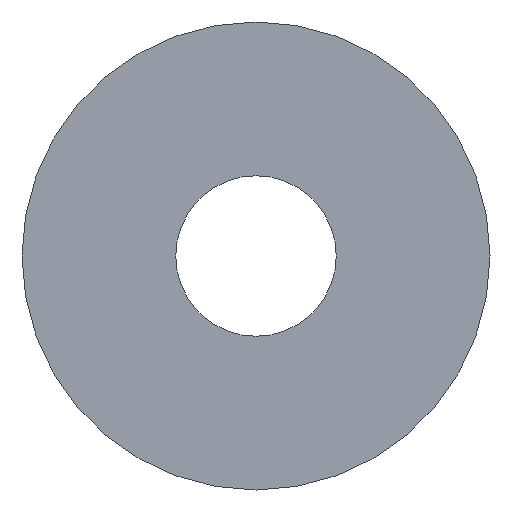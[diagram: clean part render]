
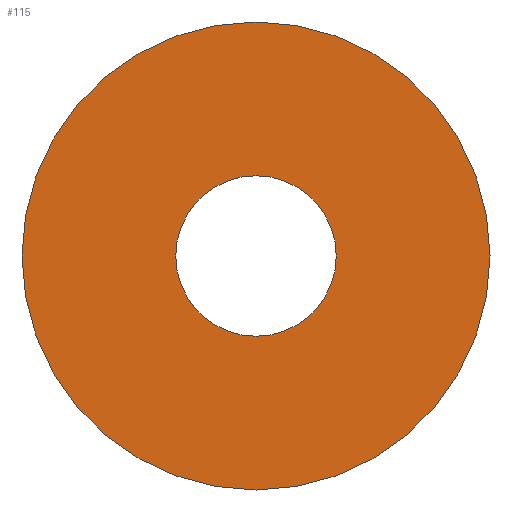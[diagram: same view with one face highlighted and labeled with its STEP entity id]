
A CAD part, front view. The second image highlights one B-rep face of the part: STEP entity #115.
In plain terms, the highlighted planar face has unit normal (0, -1, 0).
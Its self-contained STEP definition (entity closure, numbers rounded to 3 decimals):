
#6 = ORIENTED_EDGE ( 'NONE', *, *, #51, .F. ) ;
#17 = AXIS2_PLACEMENT_3D ( 'NONE', #81, #106, #171 ) ;
#44 = AXIS2_PLACEMENT_3D ( 'NONE', #93, #160, #82 ) ;
#48 = CARTESIAN_POINT ( 'NONE',  ( 0., -7.95, 6. ) ) ;
#51 = EDGE_CURVE ( 'NONE', #134, #134, #169, .T. ) ;
#53 = EDGE_LOOP ( 'NONE', ( #55 ) ) ;
#55 = ORIENTED_EDGE ( 'NONE', *, *, #164, .T. ) ;
#67 = EDGE_LOOP ( 'NONE', ( #6 ) ) ;
#81 = CARTESIAN_POINT ( 'NONE',  ( 0., -7.95, 0. ) ) ;
#82 = DIRECTION ( 'NONE',  ( 0., 0., 1. ) ) ;
#93 = CARTESIAN_POINT ( 'NONE',  ( 6., -7.95, 0. ) ) ;
#95 = CARTESIAN_POINT ( 'NONE',  ( 0., -7.95, 17.5 ) ) ;
#98 = AXIS2_PLACEMENT_3D ( 'NONE', #167, #105, #113 ) ;
#105 = DIRECTION ( 'NONE',  ( 0., 1., 0. ) ) ;
#106 = DIRECTION ( 'NONE',  ( 0., 1., 0. ) ) ;
#108 = PLANE ( 'NONE',  #44 ) ;
#110 = FACE_BOUND ( 'NONE', #53, .T. ) ;
#113 = DIRECTION ( 'NONE',  ( 0., 0., 1. ) ) ;
#115 = ADVANCED_FACE ( 'NONE', ( #174, #110 ), #108, .F. ) ;
#134 = VERTEX_POINT ( 'NONE', #95 ) ;
#153 = VERTEX_POINT ( 'NONE', #48 ) ;
#160 = DIRECTION ( 'NONE',  ( 0., 1., 0. ) ) ;
#164 = EDGE_CURVE ( 'NONE', #153, #153, #166, .T. ) ;
#166 = CIRCLE ( 'NONE', #17, 6. ) ;
#167 = CARTESIAN_POINT ( 'NONE',  ( 0., -7.95, 0. ) ) ;
#169 = CIRCLE ( 'NONE', #98, 17.5 ) ;
#171 = DIRECTION ( 'NONE',  ( 0., 0., 1. ) ) ;
#174 = FACE_OUTER_BOUND ( 'NONE', #67, .T. ) ;
